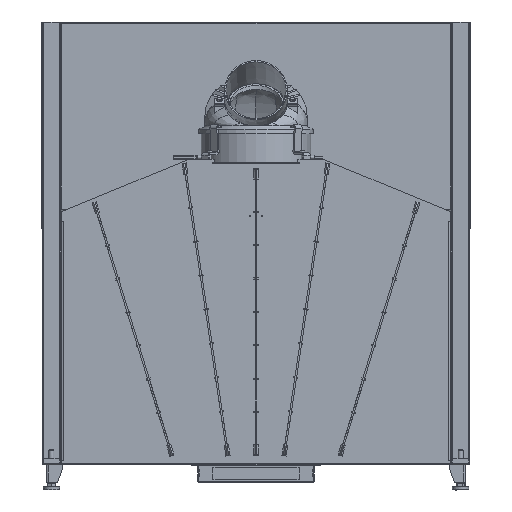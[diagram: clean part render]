
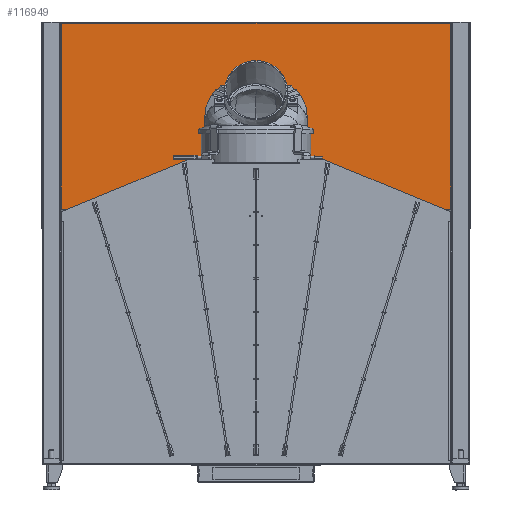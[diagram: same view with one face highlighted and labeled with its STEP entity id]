
A CAD part, front view. The second image highlights one B-rep face of the part: STEP entity #116949.
In plain terms, the highlighted planar face has unit normal (0, -1, 0).
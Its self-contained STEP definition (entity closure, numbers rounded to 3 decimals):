
#5064=FACE_OUTER_BOUND('',#11365,.T.);
#11365=EDGE_LOOP('',(#76831,#76832,#76833,#76834,#76835,#76836,#76837,#76838,
#76839,#76840));
#23295=LINE('',#171502,#34693);
#23426=LINE('',#171871,#34824);
#23428=LINE('',#171874,#34826);
#23433=LINE('',#171890,#34831);
#23495=LINE('',#172115,#34893);
#23497=LINE('',#172121,#34895);
#23504=LINE('',#172176,#34902);
#23510=LINE('',#172218,#34908);
#23524=LINE('',#172276,#34922);
#23525=LINE('',#172279,#34923);
#34693=VECTOR('',#137388,10.);
#34824=VECTOR('',#137707,10.);
#34826=VECTOR('',#137711,10.);
#34831=VECTOR('',#137730,10.);
#34893=VECTOR('',#137928,10.);
#34895=VECTOR('',#137934,10.);
#34902=VECTOR('',#137947,10.);
#34908=VECTOR('',#137959,10.);
#34922=VECTOR('',#138013,10.);
#34923=VECTOR('',#138018,10.);
#46162=VERTEX_POINT('',#171499);
#46163=VERTEX_POINT('',#171501);
#46303=VERTEX_POINT('',#171852);
#46306=VERTEX_POINT('',#171864);
#46311=VERTEX_POINT('',#171888);
#46331=VERTEX_POINT('',#172034);
#46332=VERTEX_POINT('',#172057);
#46334=VERTEX_POINT('',#172109);
#46336=VERTEX_POINT('',#172120);
#46340=VERTEX_POINT('',#172175);
#57565=EDGE_CURVE('',#46163,#46162,#23295,.T.);
#57753=EDGE_CURVE('',#46303,#46163,#23426,.T.);
#57755=EDGE_CURVE('',#46162,#46306,#23428,.T.);
#57763=EDGE_CURVE('',#46306,#46311,#23433,.T.);
#57845=EDGE_CURVE('',#46311,#46334,#23495,.T.);
#57848=EDGE_CURVE('',#46332,#46336,#23497,.T.);
#57858=EDGE_CURVE('',#46336,#46340,#23504,.T.);
#57866=EDGE_CURVE('',#46340,#46334,#23510,.T.);
#57886=EDGE_CURVE('',#46332,#46331,#23524,.T.);
#57887=EDGE_CURVE('',#46331,#46303,#23525,.T.);
#76831=ORIENTED_EDGE('',*,*,#57845,.T.);
#76832=ORIENTED_EDGE('',*,*,#57866,.F.);
#76833=ORIENTED_EDGE('',*,*,#57858,.F.);
#76834=ORIENTED_EDGE('',*,*,#57848,.F.);
#76835=ORIENTED_EDGE('',*,*,#57886,.T.);
#76836=ORIENTED_EDGE('',*,*,#57887,.T.);
#76837=ORIENTED_EDGE('',*,*,#57753,.T.);
#76838=ORIENTED_EDGE('',*,*,#57565,.T.);
#76839=ORIENTED_EDGE('',*,*,#57755,.T.);
#76840=ORIENTED_EDGE('',*,*,#57763,.T.);
#107418=PLANE('',#124169);
#116949=ADVANCED_FACE('',(#5064),#107418,.T.);
#124169=AXIS2_PLACEMENT_3D('',#172280,#138019,#138020);
#137388=DIRECTION('',(1.,0.,0.));
#137707=DIRECTION('',(1.,0.,0.));
#137711=DIRECTION('',(1.,0.,0.));
#137730=DIRECTION('',(1.,0.,0.));
#137928=DIRECTION('',(0.,0.,1.));
#137934=DIRECTION('',(1.,0.,0.));
#137947=DIRECTION('',(1.,0.,0.));
#137959=DIRECTION('',(1.,0.,0.));
#138013=DIRECTION('',(0.,0.,-1.));
#138018=DIRECTION('',(1.,0.,0.));
#138019=DIRECTION('center_axis',(0.,-1.,0.));
#138020=DIRECTION('ref_axis',(0.,0.,
-1.));
#171499=CARTESIAN_POINT('',(565.5,-10.,791.154));
#171501=CARTESIAN_POINT('',(-565.5,-10.,791.154));
#171502=CARTESIAN_POINT('',(0.,-10.,791.154));
#171852=CARTESIAN_POINT('',(-566.,-10.,791.154));
#171864=CARTESIAN_POINT('',(566.,-10.,791.154));
#171871=CARTESIAN_POINT('',(0.,-10.,791.154));
#171874=CARTESIAN_POINT('',(0.,-10.,791.154));
#171888=CARTESIAN_POINT('',(602.75,-10.,791.154));
#171890=CARTESIAN_POINT('',(0.,-10.,791.154));
#172034=CARTESIAN_POINT('',(-602.75,-10.,791.154));
#172057=CARTESIAN_POINT('',(-602.75,-10.,1365.75));
#172109=CARTESIAN_POINT('',(602.75,-10.,1365.75));
#172115=CARTESIAN_POINT('',(602.75,-10.,1225.703));
#172120=CARTESIAN_POINT('',(-601.25,-10.,1365.75));
#172121=CARTESIAN_POINT('',(0.,-10.,1365.75));
#172175=CARTESIAN_POINT('',(601.25,-10.,1365.75));
#172176=CARTESIAN_POINT('',(0.,-10.,1365.75));
#172218=CARTESIAN_POINT('',(0.,-10.,1365.75));
#172276=CARTESIAN_POINT('',(-602.75,-10.,938.405));
#172279=CARTESIAN_POINT('',(0.,-10.,791.154));
#172280=CARTESIAN_POINT('Origin',(0.,-10.,
1085.656));
